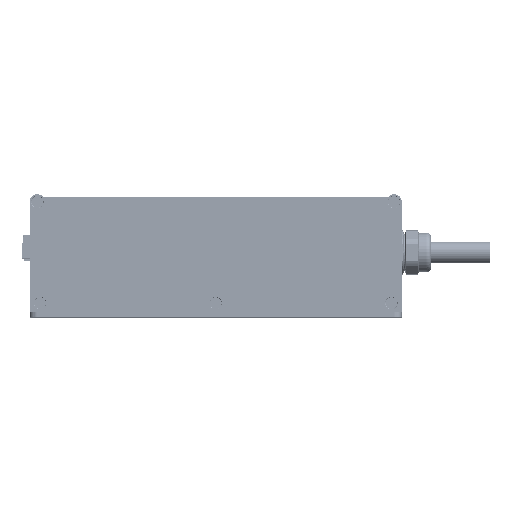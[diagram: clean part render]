
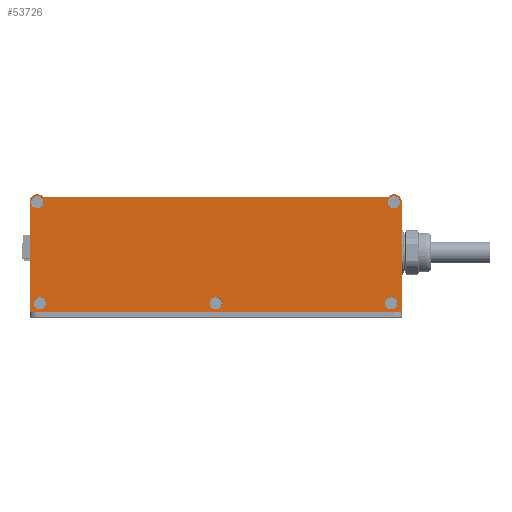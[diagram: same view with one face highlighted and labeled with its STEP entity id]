
A CAD part, top view. The second image highlights one B-rep face of the part: STEP entity #53726.
In plain terms, the highlighted planar face has unit normal (0, 0, 1).
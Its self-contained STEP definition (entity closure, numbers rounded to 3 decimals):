
#52607=CARTESIAN_POINT('',(-115.,34.5,3.));
#52608=DIRECTION('',(0.,0.,-1.));
#52609=DIRECTION('',(1.,0.,0.));
#52610=AXIS2_PLACEMENT_3D('',#52607,#52608,#52609);
#52612=CARTESIAN_POINT('',(-115.,34.5,3.));
#52613=DIRECTION('',(0.,0.,-1.));
#52614=DIRECTION('',(-1.,0.,0.));
#52615=AXIS2_PLACEMENT_3D('',#52612,#52613,#52614);
#52617=CARTESIAN_POINT('',(-113.232,-30.732,3.));
#52618=DIRECTION('',(0.,0.,-1.));
#52619=DIRECTION('',(1.,0.,0.));
#52620=AXIS2_PLACEMENT_3D('',#52617,#52618,#52619);
#52622=CARTESIAN_POINT('',(-113.232,-30.732,3.));
#52623=DIRECTION('',(0.,0.,-1.));
#52624=DIRECTION('',(-1.,0.,0.));
#52625=AXIS2_PLACEMENT_3D('',#52622,#52623,#52624);
#52627=CARTESIAN_POINT('',(113.232,-30.732,3.));
#52628=DIRECTION('',(0.,0.,-1.));
#52629=DIRECTION('',(1.,0.,0.));
#52630=AXIS2_PLACEMENT_3D('',#52627,#52628,#52629);
#52632=CARTESIAN_POINT('',(113.232,-30.732,3.));
#52633=DIRECTION('',(0.,0.,-1.));
#52634=DIRECTION('',(-1.,0.,0.));
#52635=AXIS2_PLACEMENT_3D('',#52632,#52633,#52634);
#52637=CARTESIAN_POINT('',(115.,34.5,3.));
#52638=DIRECTION('',(0.,0.,-1.));
#52639=DIRECTION('',(1.,0.,0.));
#52640=AXIS2_PLACEMENT_3D('',#52637,#52638,#52639);
#52642=CARTESIAN_POINT('',(115.,34.5,3.));
#52643=DIRECTION('',(0.,0.,-1.));
#52644=DIRECTION('',(-1.,0.,0.));
#52645=AXIS2_PLACEMENT_3D('',#52642,#52643,#52644);
#52647=CARTESIAN_POINT('',(0.,-30.732,3.));
#52648=DIRECTION('',(0.,0.,-1.));
#52649=DIRECTION('',(1.,0.,0.));
#52650=AXIS2_PLACEMENT_3D('',#52647,#52648,#52649);
#52652=CARTESIAN_POINT('',(0.,-30.732,3.));
#52653=DIRECTION('',(0.,0.,-1.));
#52654=DIRECTION('',(-1.,0.,0.));
#52655=AXIS2_PLACEMENT_3D('',#52652,#52653,#52654);
#52657=DIRECTION('',(0.707,-0.707,0.));
#52658=VECTOR('',#52657,0.45);
#52659=CARTESIAN_POINT('',(-111.464,38.036,3.));
#52660=LINE('',#52659,#52658);
#52661=CARTESIAN_POINT('',(-111.5,37.364,3.));
#52662=DIRECTION('',(0.,0.,1.));
#52663=DIRECTION('',(0.962,0.272,0.));
#52664=AXIS2_PLACEMENT_3D('',#52661,#52662,#52663);
#52666=DIRECTION('',(1.,0.,0.));
#52667=VECTOR('',#52666,222.038);
#52668=CARTESIAN_POINT('',(-111.019,37.5,3.));
#52669=LINE('',#52668,#52667);
#52670=CARTESIAN_POINT('',(111.5,37.364,3.));
#52671=DIRECTION('',(0.,0.,1.));
#52672=DIRECTION('',(-0.707,0.707,0.));
#52673=AXIS2_PLACEMENT_3D('',#52670,#52671,#52672);
#52675=DIRECTION('',(0.707,0.707,0.));
#52676=VECTOR('',#52675,0.45);
#52677=CARTESIAN_POINT('',(111.146,37.718,3.));
#52678=LINE('',#52677,#52676);
#52679=DIRECTION('',(0.,1.,0.));
#52680=VECTOR('',#52679,71.);
#52681=CARTESIAN_POINT('',(120.,-36.5,3.));
#52682=LINE('',#52681,#52680);
#52683=DIRECTION('',(1.,0.,0.));
#52684=VECTOR('',#52683,240.);
#52685=CARTESIAN_POINT('',(-120.,-36.5,3.));
#52686=LINE('',#52685,#52684);
#52687=DIRECTION('',(0.,-1.,0.));
#52688=VECTOR('',#52687,71.);
#52689=CARTESIAN_POINT('',(-120.,34.5,3.));
#52690=LINE('',#52689,#52688);
#52828=CARTESIAN_POINT('',(115.,34.5,3.));
#52829=DIRECTION('',(0.,0.,1.));
#52830=DIRECTION('',(1.,0.,0.));
#52831=AXIS2_PLACEMENT_3D('',#52828,#52829,#52830);
#52885=CARTESIAN_POINT('',(-115.,34.5,3.));
#52886=DIRECTION('',(0.,0.,1.));
#52887=DIRECTION('',(0.707,0.707,0.));
#52888=AXIS2_PLACEMENT_3D('',#52885,#52886,#52887);
#53256=CARTESIAN_POINT('',(-120.,-36.5,3.));
#53257=CARTESIAN_POINT('',(120.,-36.5,3.));
#53258=VERTEX_POINT('',#53256);
#53259=VERTEX_POINT('',#53257);
#53316=CARTESIAN_POINT('',(-120.,34.5,3.));
#53318=VERTEX_POINT('',#53316);
#53320=CARTESIAN_POINT('',(120.,34.5,3.));
#53322=VERTEX_POINT('',#53320);
#53340=CARTESIAN_POINT('',(-111.,34.5,3.));
#53341=CARTESIAN_POINT('',(-119.,34.5,3.));
#53342=VERTEX_POINT('',#53340);
#53343=VERTEX_POINT('',#53341);
#53348=CARTESIAN_POINT('',(-109.232,-30.732,3.));
#53349=CARTESIAN_POINT('',(-117.232,-30.732,3.));
#53350=VERTEX_POINT('',#53348);
#53351=VERTEX_POINT('',#53349);
#53356=CARTESIAN_POINT('',(117.232,-30.732,3.));
#53357=CARTESIAN_POINT('',(109.232,-30.732,3.));
#53358=VERTEX_POINT('',#53356);
#53359=VERTEX_POINT('',#53357);
#53364=CARTESIAN_POINT('',(119.,34.5,3.));
#53365=CARTESIAN_POINT('',(111.,34.5,3.));
#53366=VERTEX_POINT('',#53364);
#53367=VERTEX_POINT('',#53365);
#53376=CARTESIAN_POINT('',(4.,-30.732,3.));
#53377=CARTESIAN_POINT('',(-4.,-30.732,3.));
#53378=VERTEX_POINT('',#53376);
#53379=VERTEX_POINT('',#53377);
#53396=CARTESIAN_POINT('',(-111.464,38.036,3.));
#53397=CARTESIAN_POINT('',(-111.146,37.718,3.));
#53398=VERTEX_POINT('',#53396);
#53399=VERTEX_POINT('',#53397);
#53400=CARTESIAN_POINT('',(-111.019,37.5,3.));
#53401=VERTEX_POINT('',#53400);
#53402=CARTESIAN_POINT('',(111.019,37.5,3.));
#53403=VERTEX_POINT('',#53402);
#53404=CARTESIAN_POINT('',(111.146,37.718,3.));
#53405=VERTEX_POINT('',#53404);
#53406=CARTESIAN_POINT('',(111.464,38.036,3.));
#53407=VERTEX_POINT('',#53406);
#53670=CARTESIAN_POINT('',(0.,0.,3.));
#53671=DIRECTION('',(0.,0.,1.));
#53672=DIRECTION('',(1.,0.,0.));
#53673=AXIS2_PLACEMENT_3D('',#53670,#53671,#53672);
#53674=PLANE('',#53673);
#53676=ORIENTED_EDGE('',*,*,#53675,.T.);
#53678=ORIENTED_EDGE('',*,*,#53677,.F.);
#53680=ORIENTED_EDGE('',*,*,#53679,.T.);
#53682=ORIENTED_EDGE('',*,*,#53681,.F.);
#53684=ORIENTED_EDGE('',*,*,#53683,.T.);
#53686=ORIENTED_EDGE('',*,*,#53685,.F.);
#53688=ORIENTED_EDGE('',*,*,#53687,.F.);
#53690=ORIENTED_EDGE('',*,*,#53689,.F.);
#53692=ORIENTED_EDGE('',*,*,#53691,.F.);
#53694=ORIENTED_EDGE('',*,*,#53693,.F.);
#53695=EDGE_LOOP('',(#53676,#53678,#53680,#53682,#53684,#53686,#53688,#53690,
#53692,#53694));
#53696=FACE_OUTER_BOUND('',#53695,.F.);
#53698=ORIENTED_EDGE('',*,*,#53697,.F.);
#53700=ORIENTED_EDGE('',*,*,#53699,.F.);
#53701=EDGE_LOOP('',(#53698,#53700));
#53702=FACE_BOUND('',#53701,.F.);
#53704=ORIENTED_EDGE('',*,*,#53703,.F.);
#53706=ORIENTED_EDGE('',*,*,#53705,.F.);
#53707=EDGE_LOOP('',(#53704,#53706));
#53708=FACE_BOUND('',#53707,.F.);
#53710=ORIENTED_EDGE('',*,*,#53709,.F.);
#53712=ORIENTED_EDGE('',*,*,#53711,.F.);
#53713=EDGE_LOOP('',(#53710,#53712));
#53714=FACE_BOUND('',#53713,.F.);
#53716=ORIENTED_EDGE('',*,*,#53715,.F.);
#53718=ORIENTED_EDGE('',*,*,#53717,.F.);
#53719=EDGE_LOOP('',(#53716,#53718));
#53720=FACE_BOUND('',#53719,.F.);
#53722=ORIENTED_EDGE('',*,*,#53721,.F.);
#53723=ORIENTED_EDGE('',*,*,#53660,.F.);
#53724=EDGE_LOOP('',(#53722,#53723));
#53725=FACE_BOUND('',#53724,.F.);
#53726=ADVANCED_FACE('',(#53696,#53702,#53708,#53714,#53720,#53725),#53674,.T.);
#52611=CIRCLE('',#52610,4.);
#52616=CIRCLE('',#52615,4.);
#52621=CIRCLE('',#52620,4.);
#52626=CIRCLE('',#52625,4.);
#52631=CIRCLE('',#52630,4.);
#52636=CIRCLE('',#52635,4.);
#52641=CIRCLE('',#52640,4.);
#52646=CIRCLE('',#52645,4.);
#52651=CIRCLE('',#52650,4.);
#52656=CIRCLE('',#52655,4.);
#52665=CIRCLE('',#52664,0.5);
#52674=CIRCLE('',#52673,0.5);
#52832=CIRCLE('',#52831,5.);
#52889=CIRCLE('',#52888,5.);
#53660=EDGE_CURVE('',#53343,#53342,#52616,.T.);
#53675=EDGE_CURVE('',#53398,#53399,#52660,.T.);
#53677=EDGE_CURVE('',#53401,#53399,#52665,.T.);
#53679=EDGE_CURVE('',#53401,#53403,#52669,.T.);
#53681=EDGE_CURVE('',#53405,#53403,#52674,.T.);
#53683=EDGE_CURVE('',#53405,#53407,#52678,.T.);
#53685=EDGE_CURVE('',#53322,#53407,#52832,.T.);
#53687=EDGE_CURVE('',#53259,#53322,#52682,.T.);
#53689=EDGE_CURVE('',#53258,#53259,#52686,.T.);
#53691=EDGE_CURVE('',#53318,#53258,#52690,.T.);
#53693=EDGE_CURVE('',#53398,#53318,#52889,.T.);
#53697=EDGE_CURVE('',#53350,#53351,#52621,.T.);
#53699=EDGE_CURVE('',#53351,#53350,#52626,.T.);
#53703=EDGE_CURVE('',#53358,#53359,#52631,.T.);
#53705=EDGE_CURVE('',#53359,#53358,#52636,.T.);
#53709=EDGE_CURVE('',#53366,#53367,#52641,.T.);
#53711=EDGE_CURVE('',#53367,#53366,#52646,.T.);
#53715=EDGE_CURVE('',#53378,#53379,#52651,.T.);
#53717=EDGE_CURVE('',#53379,#53378,#52656,.T.);
#53721=EDGE_CURVE('',#53342,#53343,#52611,.T.);
